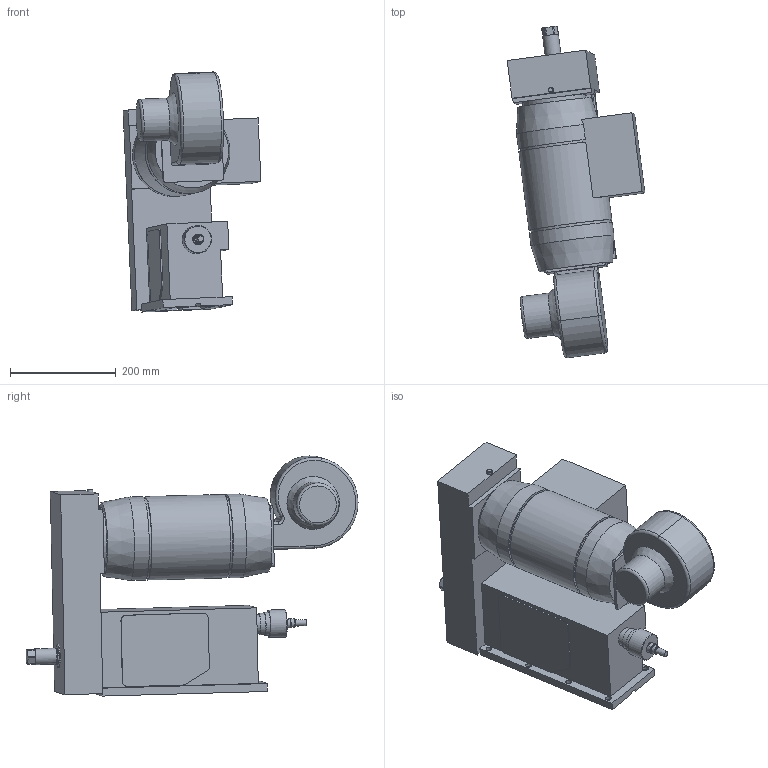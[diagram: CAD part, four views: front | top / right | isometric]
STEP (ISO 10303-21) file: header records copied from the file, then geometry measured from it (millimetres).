
FILE_DESCRIPTION((''),'2;1');
FILE_NAME('C:\VaultWork\Zeichnungen\Maßblätter\Gewindemaschinen\GE6-7\GE6-7-00-1 Maßblatt GE6-7.stp','2009-06-17T08:57:21',('Test'),(''),'Autodesk Inventor 2008','Autodesk Inventor 2008','');
FILE_SCHEMA(('AUTOMOTIVE_DESIGN { 1 0 10303 214 1 1 1 1 }'));
Length unit declared in the file: millimetre
Products named in the file (1): GE6-7-00-1 Maßblatt GE6-7
Bounding box: 260.47 x 627.51 x 453.9 mm (x, y, z)
Volume: 19147248.1 mm3; surface area: 729479.5 mm2
Topology: 1 solids, 5 shells, 218 faces, 506 edges, 328 vertices
Faces by surface type: plane 123, cylinder 42, bspline 36, torus 10, cone 7
Full cylindrical faces by diameter (mm): 7 x2, 10 x1, 11.5 x1, 14 x1, 16 x1, 20 x1, 26 x1, 30 x2, 35 x1, 40 x1, 44 x1, 45 x1, 52 x1, 80 x1, 120 x1, 150 x1, 158 x2
Entity records: 6370 total; most frequent: CARTESIAN_POINT 1462, DIRECTION 956, ORIENTED_EDGE 864, EDGE_CURVE 432, AXIS2_PLACEMENT_3D 355, EDGE_LOOP 321, VERTEX_POINT 311, VECTOR 246
